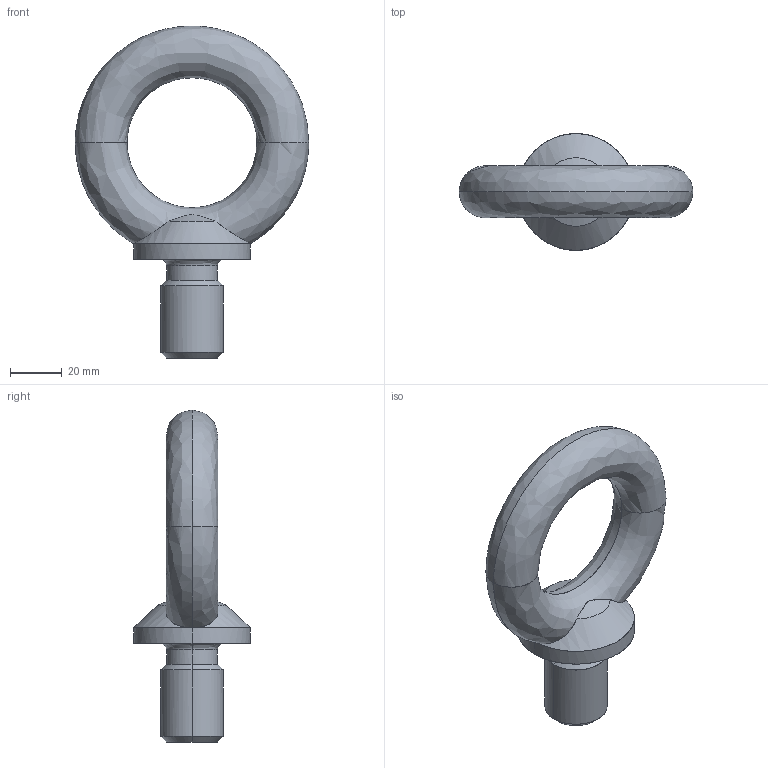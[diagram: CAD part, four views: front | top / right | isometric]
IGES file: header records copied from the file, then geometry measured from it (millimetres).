
Global section: file name: E:\UnigraphicsGraphicData\MISUMI_PRESS-PARTS\IGES\3d_chi24_03529_r00.igs; native system: NX V5.0; preprocessor: UGS NX IGES V5.0; author: MISUMI; date: 20110105.160218; units: millimetre
Bounding box: 90 x 45 x 127.99 mm (x, y, z)
Surface area: 18694.1 mm2 (no closed solid volume)
Topology: 0 solids, 0 shells, 22 faces, 140 edges, 140 vertices
Faces by surface type: bspline 22
